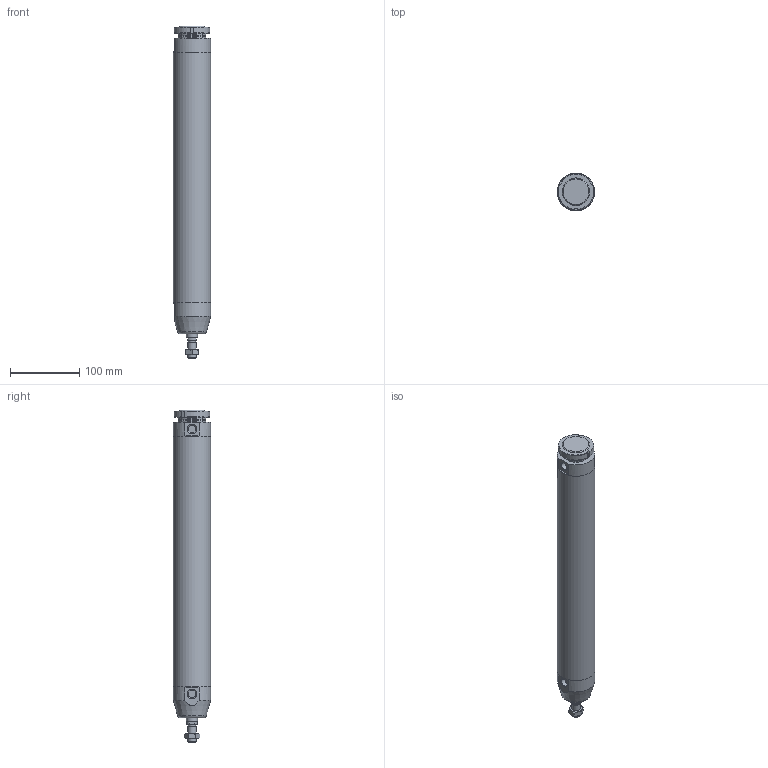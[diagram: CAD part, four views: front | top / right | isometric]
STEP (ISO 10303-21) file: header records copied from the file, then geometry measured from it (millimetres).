
FILE_DESCRIPTION(/* description */ (''),/* implementation_level */ '2;1');
FILE_NAME(/* name */ 'I:\Area Tecnica\Documenti\A-Manieri\_Inventor\12X\12X#B_###_####_#_#\12XAB_050_0320_#_#.stp',/* time_stamp */ '2015-04-27T16:25:44+02:00',/* author */ ('maniean1'),/* organization */ ('Pneumax S.p.A.'),/* preprocessor_version */ 'ST-DEVELOPER v15.2',/* originating_system */ 'Autodesk Inventor 2014',/* authorisation */ '');
FILE_SCHEMA (('AUTOMOTIVE_DESIGN { 1 0 10303 214 3 1 1 }'));
Length unit declared in the file: millimetre
Products named in the file (7): C1250_619-0320; 12X50_613; S12X50_0320; 12X_50_11; 12X50_620; G12X_050_05; 12XAB_050_0320_#_#
Bounding box: 54 x 54 x 480 mm (x, y, z)
Volume: 435729.9 mm3; surface area: 177702.6 mm2
Topology: 6 solids, 6 shells, 80 faces, 175 edges, 112 vertices
Faces by surface type: plane 40, cylinder 20, cone 19, torus 1
Full cylindrical faces by diameter (mm): 10.2 x1, 11.4 x2, 12 x2, 14 x1, 15.6 x1, 16 x1, 38.2 x1, 40 x3, 50 x2, 54 x3
Entity records: 2134 total; most frequent: CARTESIAN_POINT 399, DIRECTION 359, ORIENTED_EDGE 282, AXIS2_PLACEMENT_3D 154, EDGE_CURVE 141, EDGE_LOOP 122, VERTEX_POINT 107, ADVANCED_FACE 80
